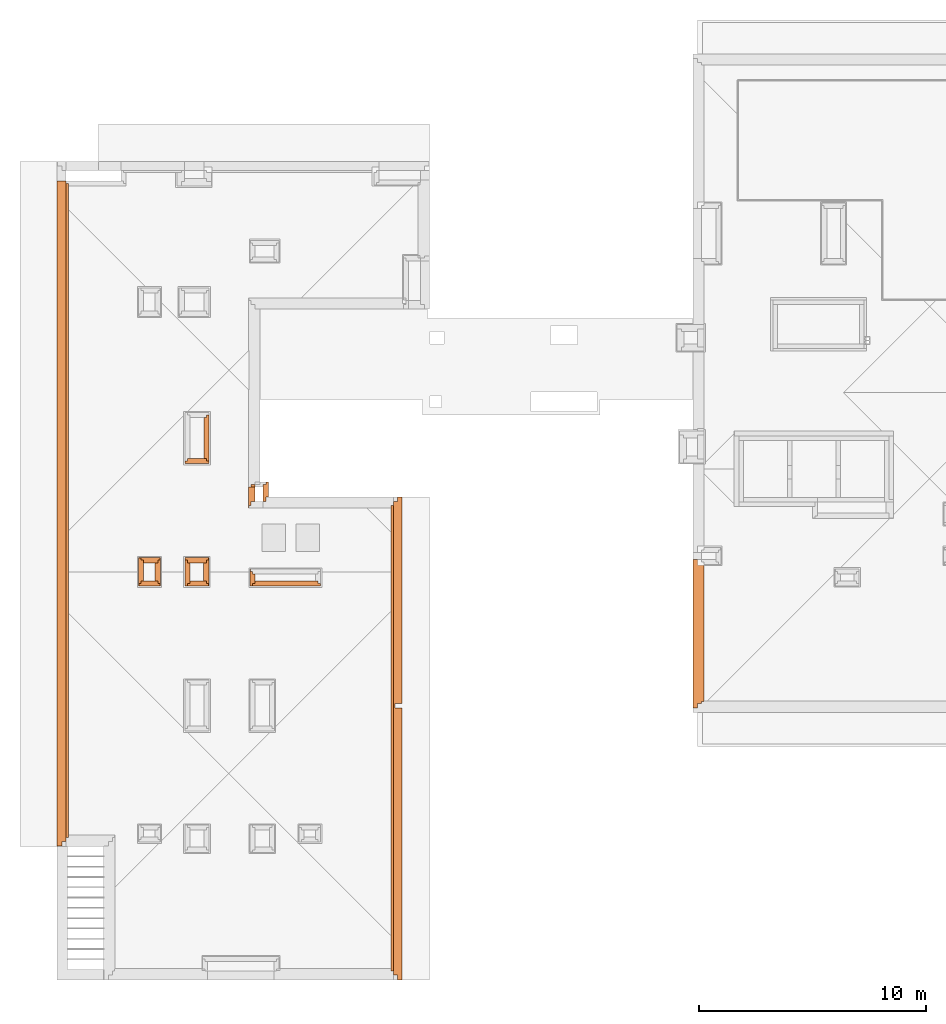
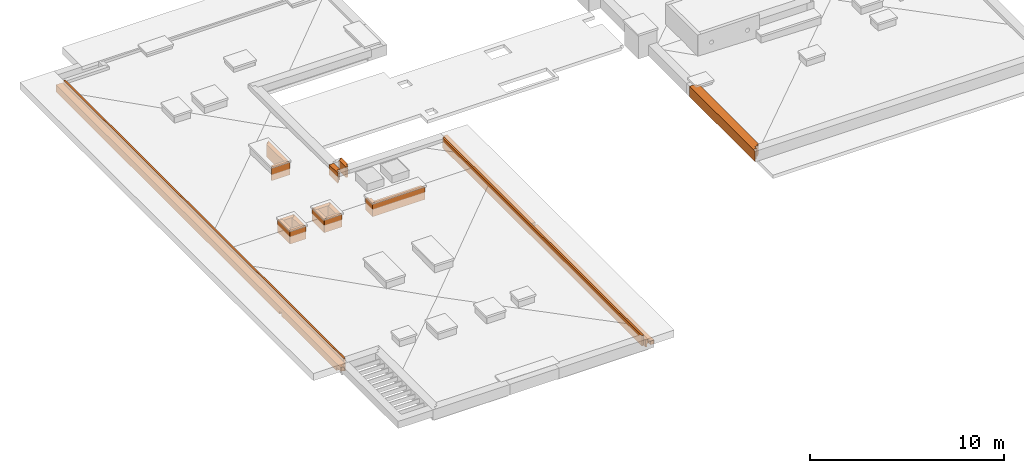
# One storey, part 8 of 16: 17 proxies.
"""IFC2X3 building model written with IfcOpenShell, lengths in millimetres."""

from ifc_helpers import new_model, entity, si_unit, converted_unit, derived_unit, money_unit, direction, frame, origin_with_axes, place, context, subcontext, project, spatial, faceted_brep, material, material_list, type_object, element, save


model = new_model("IFC2X3")

# Units and contexts
model_context = context("Model", 3, precision=0.01, world=origin_with_axes(), true_north=direction((0.34421633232, 0.938890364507)))
body_context = subcontext(model_context, "Body", "Model", "MODEL_VIEW")
ifc_project = project(units=[si_unit("LENGTHUNIT", "METRE", prefix="MILLI"), si_unit("AREAUNIT", "SQUARE_METRE"), si_unit("VOLUMEUNIT", "CUBIC_METRE"), converted_unit("PLANEANGLEUNIT", "DEGREE", entity("IfcPlaneAngleMeasure", 0.0174532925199), si_unit("PLANEANGLEUNIT", "RADIAN"), dimensions=[0, 0, 0, 0, 0, 0, 0]), si_unit("SOLIDANGLEUNIT", "STERADIAN"), money_unit("USD"), converted_unit("TIMEUNIT", "Year", entity("IfcTimeMeasure", 31556926.0), si_unit("TIMEUNIT", "SECOND"), dimensions=[0, 0, 1, 0, 0, 0, 0]), si_unit("MASSUNIT", "GRAM", prefix="KILO"), si_unit("THERMODYNAMICTEMPERATUREUNIT", "DEGREE_CELSIUS"), si_unit("LUMINOUSINTENSITYUNIT", "LUMEN"), si_unit("ENERGYUNIT", "JOULE", prefix="MEGA"), derived_unit("THERMALCONDUCTANCEUNIT", [(si_unit("POWERUNIT", "WATT"), 1), (si_unit("LENGTHUNIT", "METRE"), -1), (si_unit("THERMODYNAMICTEMPERATUREUNIT", "KELVIN"), -1)]), derived_unit("SPECIFICHEATCAPACITYUNIT", [(si_unit("ENERGYUNIT", "JOULE"), 1), (si_unit("MASSUNIT", "GRAM", prefix="KILO"), -1), (si_unit("THERMODYNAMICTEMPERATUREUNIT", "KELVIN"), -1)]), derived_unit("MASSDENSITYUNIT", [(si_unit("MASSUNIT", "GRAM", prefix="KILO"), 1), (si_unit("VOLUMEUNIT", "CUBIC_METRE"), -1)])], contexts=[model_context])

# Site, building, storey
site_placement = place(None, origin_with_axes())
site = spatial("IfcSite", under=ifc_project, at=site_placement, Name="USTRONIE MORSKIE", CompositionType="ELEMENT")
building_placement = place(site_placement, origin_with_axes())
building = spatial("IfcBuilding", under=site, at=building_placement, Name="Budynek", CompositionType="ELEMENT")
storey_placement = place(building_placement, frame((0.0, 0.0, 19000.0), z_axis=(0.0, 0.0, 1.0), x_axis=(1.0, 0.0, 0.0)))
storey = spatial("IfcBuildingStorey", under=building, at=storey_placement, Name="DACH", CompositionType="ELEMENT", Elevation=19000.0)

# Proxies
ifc_material_1 = material(Name="Tynk zewnętrzny")
ifc_material_2 = material(Name="Wełna ELEW")
ifc_material_3 = material(Name="Bloczki silikatowe")
ifc_material_list_1 = material_list([ifc_material_1, ifc_material_2, ifc_material_3, ifc_material_2, ifc_material_1])
building_element_proxy_type_1 = type_object("IfcBuildingElementProxyType", Name="18 SILIKAT+20-10 500", PredefinedType="NOTDEFINED")
proxy_1_placement = place(storey_placement, frame((365967.920919, 730001.199019, -160.0), z_axis=(0.0, 0.0, 1.0), x_axis=(0.0, -1.0, 0.0)))
element("IfcBuildingElementProxy", 1, at=proxy_1_placement, inside=storey, type_object=building_element_proxy_type_1, material=ifc_material_list_1, Name="Œciana-006", context=body_context, shape_type="Brep", body=[
    faceted_brep([(9099.99998246, 200.0, 450.0), (9099.99998246, 210.0, 450.0), (9099.99998246, 210.0, 0.0), (9099.99998246, 200.0, 0.0), (21109.9999825, 210.0, 450.0), (21109.9999825, 200.0, 450.0), (21109.9999825, 210.0, 210.000000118), (20639.9999825, 210.0, 210.000000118), (20639.9999825, 210.0, 0.0), (20639.9999825, 200.0, 0.0), (20639.9999825, 200.0, 210.000000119), (21109.9999825, 200.0, 210.000000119)], [[[0, 1, 2, 3]], [[4, 1, 0, 5]], [[1, 4, 6, 7, 8, 2]], [[9, 3, 2, 8]], [[5, 0, 3, 9, 10, 11]], [[4, 5, 11, 6]], [[10, 7, 6, 11]], [[9, 8, 7, 10]]]),
    faceted_brep([(-209.999653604, 200.0, 450.0), (-209.999653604, 210.0, 450.0), (-209.999653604, 210.0, 210.000000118), (-209.999653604, 200.0, 210.000000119), (8899.99998246, 210.0, 450.0), (8899.99998246, 200.0, 450.0), (8899.99998246, 210.0, 0.0), (260.000346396, 210.0, 0.0), (260.000346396, 210.0, 210.000000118), (260.000346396, 200.0, 210.000000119), (260.000346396, 200.0, 0.0), (8899.99998246, 200.0, 0.0)], [[[0, 1, 2, 3]], [[4, 1, 0, 5]], [[1, 4, 6, 7, 8, 2]], [[2, 8, 9, 3]], [[5, 0, 3, 9, 10, 11]], [[4, 5, 11, 6]], [[11, 10, 7, 6]], [[9, 8, 7, 10]]]),
    faceted_brep([(9099.99998246, 0.0, 450.0), (9099.99998246, 200.0, 450.0), (9099.99998246, 200.0, 0.0), (9099.99998246, 0.0, 0.0), (21099.9999825, 200.0, 450.0), (21099.9999825, 0.0, 450.0), (21099.9999825, 200.0, 210.000000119), (20649.9999825, 200.0, 210.000000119), (20649.9999825, 200.0, 0.0), (20649.9999825, 0.0, 0.0), (20649.9999825, 0.0, 210.000000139), (21099.9999825, 0.0, 210.000000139)], [[[0, 1, 2, 3]], [[4, 1, 0, 5]], [[1, 4, 6, 7, 8, 2]], [[9, 3, 2, 8]], [[5, 0, 3, 9, 10, 11]], [[4, 5, 11, 6]], [[11, 10, 7, 6]], [[9, 8, 7, 10]]]),
    faceted_brep([(-199.999838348, 0.0, 450.0), (-199.999838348, 200.0, 450.0), (-199.999653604, 200.0, 210.000000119), (-199.999653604, 0.0, 210.000000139), (8899.99998246, 200.0, 450.0), (8899.99998246, 0.0, 450.0), (8899.99998246, 200.0, 0.0), (250.000346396, 200.0, 0.0), (250.000346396, 200.0, 210.000000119), (250.000346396, 0.0, 210.000000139), (250.000346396, 0.0, 0.0), (8899.99998246, 0.0, 0.0)], [[[0, 1, 2, 3]], [[4, 1, 0, 5]], [[1, 4, 6, 7, 8, 2]], [[3, 2, 8, 9]], [[5, 0, 3, 9, 10, 11]], [[4, 5, 11, 6]], [[11, 10, 7, 6]], [[9, 8, 7, 10]]]),
    faceted_brep([(0.0, -180.0, 450.0), (0.000161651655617, 0.0, 450.0), (0.000346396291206, 0.0, 210.000000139), (0.000346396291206, -100.0, 210.000000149), (0.000346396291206, -100.0, 0.0), (0.0, -180.0, 0.0), (8899.99998246, 0.0, 450.0), (20899.9999825, -180.0, 450.0), (20899.9999825, 0.0, 450.0), (9099.99998246, 0.0, 450.0), (9099.99998246, -100.0, 450.0), (8899.99998246, -100.0, 450.0), (8899.99998246, 0.0, 0.0), (200.000346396, 0.0, 0.0), (200.000346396, 0.0, 210.000000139), (200.000346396, -100.0, 210.000000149), (200.000346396, -100.0, 0.0), (8899.99998246, -100.0, 0.0), (9099.99998246, -100.0, 0.0), (9099.99998246, 0.0, 0.0), (20699.9999825, 0.0, 0.0), (20699.9999825, -100.0, 0.0), (20899.9999825, -100.0, 0.0), (20899.9999825, -180.0, 0.0), (20899.9999825, -100.0, 210.000000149), (20899.9999825, 0.0, 210.000000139), (20699.9999825, 0.0, 210.000000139), (20699.9999825, -100.0, 210.000000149)], [[[0, 1, 2, 3, 4, 5]], [[6, 1, 0, 7, 8, 9, 10, 11]], [[1, 6, 12, 13, 14, 2]], [[15, 3, 2, 14]], [[16, 4, 3, 15]], [[4, 16, 13, 12, 17, 18, 19, 20, 21, 22, 23, 5]], [[7, 0, 5, 23]], [[8, 7, 23, 22, 24, 25]], [[9, 8, 25, 26, 20, 19]], [[10, 9, 19, 18]], [[11, 10, 18, 17]], [[6, 11, 17, 12]], [[15, 14, 13, 16]], [[21, 20, 26, 27]], [[24, 22, 21, 27]], [[27, 26, 25, 24]]]),
    faceted_brep([(20719.9999825, -180.0, 5.0), (180.0, -180.0, 5.0), (180.0, -180.0, 660.0), (20719.9999825, -180.0, 660.0), (180.0, -280.0, 5.0), (20719.9999825, -280.0, 5.0), (180.0, -280.0, 660.0), (20719.9999825, -280.0, 660.0)], [[[0, 1, 2, 3]], [[4, 1, 0, 5]], [[1, 4, 6, 2]], [[7, 3, 2, 6]], [[5, 0, 3, 7]], [[4, 5, 7, 6]]]),
    faceted_brep([(20619.9999825, -280.0, 5.0), (280.0, -280.0, 5.0), (280.0, -280.0, 660.0), (20619.9999825, -280.0, 660.0), (280.0, -290.0, 5.0), (20619.9999825, -290.0, 5.0), (280.0, -290.0, 660.0), (20619.9999825, -290.0, 660.0)], [[[0, 1, 2, 3]], [[4, 1, 0, 5]], [[1, 4, 6, 2]], [[7, 3, 2, 6]], [[5, 0, 3, 7]], [[4, 5, 7, 6]]]),
])
proxy_2_placement = place(storey_placement, frame((351167.920919, 715001.199036, -160.0), z_axis=(0.0, 0.0, 1.0), x_axis=(0.0, 1.0, 0.0)))
element("IfcBuildingElementProxy", 2, at=proxy_2_placement, inside=storey, type_object=building_element_proxy_type_1, material=ifc_material_list_1, Name="Œciana-006", context=body_context, shape_type="Brep", body=[
    faceted_brep([(29150.0, 210.0, 450.0), (29150.0, 200.0, 450.0), (29150.0, 200.0, 0.0), (29150.0, 210.0, 0.0), (-210.0, 200.0, 450.0), (-210.0, 210.0, 450.0), (-210.0, 200.0, 210.000000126), (260.0, 200.0, 210.000000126), (260.0, 200.0, 0.0), (5900.00898274, 200.0, 0.0), (5900.00898274, 200.0, 190.0), (6100.00898274, 200.0, 190.0), (6100.00898274, 200.0, 0.0), (6100.00898274, 210.0, 0.0), (6100.00898274, 210.0, 190.0), (5900.00898274, 210.0, 190.0), (5900.00898274, 210.0, 0.0), (260.0, 210.0, 0.0), (260.0, 210.0, 210.000000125), (-210.0, 210.0, 210.000000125)], [[[0, 1, 2, 3]], [[4, 1, 0, 5]], [[1, 4, 6, 7, 8, 9, 10, 11, 12, 2]], [[2, 12, 13, 3]], [[5, 0, 3, 13, 14, 15, 16, 17, 18, 19]], [[4, 5, 19, 6]], [[18, 7, 6, 19]], [[17, 8, 7, 18]], [[9, 8, 17, 16]], [[15, 10, 9, 16]], [[14, 11, 10, 15]], [[13, 12, 11, 14]]]),
    faceted_brep([(29150.0, 200.0, 450.0), (29150.0, 0.0, 450.0), (29150.0, 0.0, 0.0), (29150.0, 200.0, 0.0), (-200.0, 0.0, 450.0), (-200.0, 200.0, 450.0), (-200.0, 0.0, 210.000000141), (250.0, 0.0, 210.000000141), (250.0, 0.0, 0.0), (5900.00898274, 0.0, 0.0), (5900.00898274, 0.0, 190.0), (6100.00898274, 0.0, 190.0), (6100.00898274, 0.0, 0.0), (6100.00898274, 200.0, 0.0), (6100.00898274, 200.0, 190.0), (5900.00898274, 200.0, 190.0), (5900.00898274, 200.0, 0.0), (250.0, 200.0, 0.0), (250.0, 200.0, 210.000000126), (-200.0, 200.0, 210.000000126)], [[[0, 1, 2, 3]], [[4, 1, 0, 5]], [[1, 4, 6, 7, 8, 9, 10, 11, 12, 2]], [[2, 12, 13, 3]], [[5, 0, 3, 13, 14, 15, 16, 17, 18, 19]], [[4, 5, 19, 6]], [[19, 18, 7, 6]], [[17, 8, 7, 18]], [[9, 8, 17, 16]], [[15, 10, 9, 16]], [[14, 11, 10, 15]], [[13, 12, 11, 14]]]),
    faceted_brep([(29150.0, 0.0, 450.0), (29150.0, -180.0, 450.0), (29150.0, -180.0, 0.0), (29150.0, 0.0, 0.0), (0.0, -180.0, 450.0), (-1.13686837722e-10, 0.0, 450.0), (0.0, -180.0, 0.0), (-2.27373675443e-10, -100.0, 0.0), (200.0, -100.0, 0.0), (200.0, 0.0, 0.0), (5900.00898274, 0.0, 0.0), (5900.00898274, -100.0, 0.0), (6100.00898274, -100.0, 0.0), (6100.00898274, 0.0, 0.0), (6100.00898274, 0.0, 190.0), (5900.00898274, 0.0, 190.0), (200.0, 0.0, 210.000000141), (-2.27373675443e-10, 0.0, 210.000000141), (-2.27373675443e-10, -100.0, 210.000000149), (200.0, -100.0, 210.000000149), (5900.00898274, -100.0, 190.0), (6100.00898274, -100.0, 190.0)], [[[0, 1, 2, 3]], [[4, 1, 0, 5]], [[1, 4, 6, 2]], [[7, 8, 9, 10, 11, 12, 13, 3, 2, 6]], [[5, 0, 3, 13, 14, 15, 10, 9, 16, 17]], [[4, 5, 17, 18, 7, 6]], [[19, 8, 7, 18]], [[16, 9, 8, 19]], [[20, 11, 10, 15]], [[21, 12, 11, 20]], [[14, 13, 12, 21]], [[20, 15, 14, 21]], [[19, 18, 17, 16]]]),
    faceted_brep([(180.0, -280.0, 5.0), (29030.0, -280.0, 5.0), (29030.0, -280.0, 660.0), (180.0, -280.0, 660.0), (29030.0, -180.0, 5.0), (180.0, -180.0, 5.0), (29030.0, -180.0, 660.0), (180.0, -180.0, 660.0)], [[[0, 1, 2, 3]], [[4, 1, 0, 5]], [[1, 4, 6, 2]], [[3, 2, 6, 7]], [[5, 0, 3, 7]], [[4, 5, 7, 6]]]),
    faceted_brep([(280.0, -290.0, 5.0), (28930.0, -290.0, 5.0), (28930.0, -290.0, 660.0), (280.0, -290.0, 660.0), (28930.0, -280.0, 5.0), (280.0, -280.0, 5.0), (28930.0, -280.0, 660.0), (280.0, -280.0, 660.0)], [[[0, 1, 2, 3]], [[4, 1, 0, 5]], [[1, 4, 6, 2]], [[3, 2, 6, 7]], [[5, 0, 3, 7]], [[4, 5, 7, 6]]]),
])
proxy_3_placement = place(storey_placement, frame((379217.920919, 720901.199036, -160.0), z_axis=(0.0, 0.0, 1.0), x_axis=(0.0, 1.0, 0.0)))
element("IfcBuildingElementProxy", 3, at=proxy_3_placement, inside=storey, type_object=building_element_proxy_type_1, material=ifc_material_list_1, Name="Œciana-006", context=body_context, shape_type="Brep", body=[
    faceted_brep([(-200.0, 200.0, 660.0), (6550.0, 200.0, 660.0), (6550.0, 210.0, 660.0), (-200.0, 210.0, 660.0), (-200.0, 200.0, 0.0), (6550.0, 200.0, 0.0), (6550.0, 210.0, 0.0), (-200.0, 210.0, 0.0)], [[[0, 1, 2, 3]], [[4, 5, 1, 0]], [[2, 1, 5, 6]], [[3, 2, 6, 7]], [[3, 7, 4, 0]], [[7, 6, 5, 4]]]),
    faceted_brep([(0.0, 200.0, 660.0), (0.0, 0.0, 660.0), (6550.0, 0.0, 660.0), (6550.0, 200.0, 660.0), (0.0, 200.0, 0.0), (0.0, 0.0, 0.0), (6550.0, 0.0, 0.0), (6550.0, 200.0, 0.0)], [[[0, 1, 2, 3]], [[1, 0, 4, 5]], [[1, 5, 6, 2]], [[7, 3, 2, 6]], [[4, 0, 3, 7]], [[5, 4, 7, 6]]]),
    faceted_brep([(6550.0, 0.0, 660.0), (180.0, 0.0, 660.0), (180.0, -180.0, 660.0), (6550.0, -180.0, 660.0), (6550.0, 0.0, 0.0), (180.0, 0.0, 0.0), (180.0, -180.0, 0.0), (6550.0, -180.0, 0.0)], [[[0, 1, 2, 3]], [[4, 5, 1, 0]], [[6, 2, 1, 5]], [[3, 2, 6, 7]], [[7, 4, 0, 3]], [[7, 6, 5, 4]]]),
    faceted_brep([(280.0, -280.0, 660.0), (280.0, -280.0, 5.0), (6430.0, -280.0, 5.0), (6430.0, -280.0, 660.0), (280.0, -180.0, 660.0), (280.0, -180.0, 5.0), (6430.0, -180.0, 5.0), (6430.0, -180.0, 660.0)], [[[0, 1, 2, 3]], [[4, 5, 1, 0]], [[5, 6, 2, 1]], [[3, 2, 6, 7]], [[4, 0, 3, 7]], [[7, 6, 5, 4]]]),
    faceted_brep([(6319.99996425, -290.0, 519.111988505), (6319.99996425, -290.0, 5.0), (6330.0, -290.0, 5.0), (6330.0, -290.0, 660.0), (290.0, -290.0, 660.0), (290.0, -290.0, 519.111989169), (6319.99996425, -279.999987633, 519.311988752), (6319.99996425, -279.999987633, 5.0), (6330.0, -280.0, 5.0), (6330.0, -280.0, 660.0), (290.0, -280.0, 660.0), (290.0, -279.999817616, 519.311992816)], [[[0, 1, 2, 3, 4, 5]], [[1, 0, 6, 7]], [[1, 7, 8, 2]], [[3, 2, 8, 9]], [[10, 4, 3, 9]], [[11, 5, 4, 10]], [[0, 5, 11, 6]], [[6, 11, 10, 9, 8, 7]]]),
])
ifc_material_list_2 = material_list([ifc_material_3, ifc_material_2, ifc_material_1])
building_element_proxy_type_2 = type_object("IfcBuildingElementProxyType", Name="12+10 kominy 230", PredefinedType="NOTDEFINED")
proxy_4_placement = place(storey_placement, frame((359697.922503, 726501.19248, -160.0), z_axis=(0.0, 0.0, 1.0), x_axis=(1.0, 0.0, 0.0)))
element("IfcBuildingElementProxy", 4, at=proxy_4_placement, inside=storey, type_object=building_element_proxy_type_2, material=ifc_material_list_2, Name="Œciana-006", context=body_context, shape_type="Brep", body=[
    faceted_brep([(2779.99841571, 0.0, 0.0), (2779.99841571, -120.0, 0.0), (0.0, -120.0, 0.0), (0.0, 0.0, 0.0), (2779.99841571, 0.0, 800.000001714), (2779.99841571, -120.0, 800.000001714), (0.0, -120.0, 800.000001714), (0.0, 0.0, 800.000001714)], [[[0, 1, 2, 3]], [[1, 0, 4, 5]], [[1, 5, 6, 2]], [[7, 3, 2, 6]], [[4, 0, 3, 7]], [[5, 4, 7, 6]]]),
    faceted_brep([(2879.99841571, -220.0, 5.0), (2879.99841571, -120.0, 5.0), (2879.99841571, -120.0, 800.000001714), (2879.99841571, -220.0, 800.000001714), (-120.0, -120.0, 5.0), (-120.0, -220.0, 5.0), (-120.0, -120.0, 800.000001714), (-120.0, -220.0, 800.000001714)], [[[0, 1, 2, 3]], [[4, 1, 0, 5]], [[1, 4, 6, 2]], [[3, 2, 6, 7]], [[5, 0, 3, 7]], [[4, 5, 7, 6]]]),
    faceted_brep([(2889.99841571, -230.0, 5.0), (2889.99841571, -220.0, 5.0), (2889.99841571, -220.0, 800.000001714), (2889.99841571, -230.0, 800.000001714), (-220.0, -220.0, 5.0), (-220.0, -230.0, 5.0), (-220.0, -220.0, 800.000001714), (-220.0, -230.0, 800.000001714)], [[[0, 1, 2, 3]], [[4, 1, 0, 5]], [[1, 4, 6, 2]], [[3, 2, 6, 7]], [[5, 0, 3, 7]], [[4, 5, 7, 6]]]),
])
ifc_material_list_3 = material_list([ifc_material_1, ifc_material_2, ifc_material_3])
proxy_5_placement = place(storey_placement, frame((355277.920919, 726501.199036, -160.0), z_axis=(0.0, 0.0, 1.0), x_axis=(-1.0, 0.0, 0.0)))
element("IfcBuildingElementProxy", 5, at=proxy_5_placement, inside=storey, type_object=building_element_proxy_type_2, material=ifc_material_list_3, Name="Œciana-006", context=body_context, shape_type="Brep", body=[
    faceted_brep([(-230.0, 230.0, 5.0), (-230.0, 220.0, 5.0), (-230.0, 220.0, 800.000001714), (-230.0, 230.0, 800.000001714), (730.0, 220.0, 5.0), (730.0, 230.0, 5.0), (730.0, 220.0, 800.000001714), (730.0, 230.0, 800.000001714)], [[[0, 1, 2, 3]], [[4, 1, 0, 5]], [[1, 4, 6, 2]], [[6, 7, 3, 2]], [[5, 0, 3, 7]], [[4, 5, 7, 6]]]),
    faceted_brep([(-220.0, 220.0, 5.0), (-220.0, 120.0, 5.0), (-220.0, 120.0, 800.000001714), (-220.0, 220.0, 800.000001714), (720.0, 120.0, 5.0), (720.0, 220.0, 5.0), (720.0, 120.0, 800.000001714), (720.0, 220.0, 800.000001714)], [[[0, 1, 2, 3]], [[4, 1, 0, 5]], [[1, 4, 6, 2]], [[6, 7, 3, 2]], [[5, 0, 3, 7]], [[4, 5, 7, 6]]]),
    faceted_brep([(620.0, 0.0, 800.000001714), (620.0, 120.0, 800.000001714), (-120.0, 120.0, 800.000001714), (-120.0, 0.0, 800.000001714), (620.0, 0.0, 0.0), (620.0, 120.0, 0.0), (-120.0, 120.0, 0.0), (-120.0, 0.0, 0.0)], [[[0, 1, 2, 3]], [[1, 0, 4, 5]], [[1, 5, 6, 2]], [[7, 3, 2, 6]], [[4, 0, 3, 7]], [[5, 4, 7, 6]]]),
])
proxy_6_placement = place(storey_placement, frame((354777.920919, 726501.199036, -160.0), z_axis=(0.0, 0.0, 1.0), x_axis=(0.0, 1.0, 0.0)))
element("IfcBuildingElementProxy", 6, at=proxy_6_placement, inside=storey, type_object=building_element_proxy_type_2, material=ifc_material_list_3, Name="Œciana-006", context=body_context, shape_type="Brep", body=[
    faceted_brep([(800.0, 220.0, 5.0), (1030.01915523, 220.0, 5.0), (1030.01915523, 220.0, 800.000001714), (-220.0, 220.0, 800.000001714), (-220.0, 220.0, 5.0), (1030.01915523, 230.0, 5.0), (800.0, 230.0, 5.0), (1030.01915523, 230.0, 800.000001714), (-220.0, 230.0, 800.000001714), (-220.0, 230.0, 5.0)], [[[0, 1, 2, 3, 4]], [[5, 1, 0, 6]], [[1, 5, 7, 2]], [[2, 7, 8, 3]], [[9, 4, 3, 8]], [[6, 0, 4, 9]], [[5, 6, 9, 8, 7]]]),
    faceted_brep([(1020.01915523, 120.0, 5.0), (1020.01915523, 120.0, 800.000001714), (-120.0, 120.0, 800.000001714), (-120.0, 120.0, 5.0), (1020.01915523, 220.0, 5.0), (1020.01915523, 220.0, 800.000001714), (-120.0, 220.0, 800.000001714), (-120.0, 220.0, 5.0)], [[[0, 1, 2, 3]], [[0, 4, 5, 1]], [[1, 5, 6, 2]], [[7, 3, 2, 6]], [[4, 0, 3, 7]], [[4, 7, 6, 5]]]),
    faceted_brep([(920.01915523, 0.0, 800.000001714), (920.01915523, 120.0, 800.000001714), (0.0, 120.0, 800.000001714), (0.0, 0.0, 800.000001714), (920.01915523, 0.0, 0.0), (920.01915523, 120.0, 0.0), (0.0, 120.0, 0.0), (0.0, 0.0, 0.0)], [[[0, 1, 2, 3]], [[1, 0, 4, 5]], [[1, 5, 6, 2]], [[7, 3, 2, 6]], [[4, 0, 3, 7]], [[5, 4, 7, 6]]]),
])
proxy_7_placement = place(storey_placement, frame((356817.920919, 726501.19248, -160.0), z_axis=(0.0, 0.0, 1.0), x_axis=(1.0, 0.0, 0.0)))
element("IfcBuildingElementProxy", 7, at=proxy_7_placement, inside=storey, type_object=building_element_proxy_type_2, material=ifc_material_list_2, Name="Œciana-006", context=body_context, shape_type="Brep", body=[
    faceted_brep([(720.0, 0.0, 0.0), (720.0, -120.0, 0.0), (0.0, -120.0, 0.0), (0.0, 0.0, 0.0), (720.0, 0.0, 800.000001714), (720.0, -120.0, 800.000001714), (0.0, -120.0, 800.000001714), (0.0, 0.0, 800.000001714)], [[[0, 1, 2, 3]], [[1, 0, 4, 5]], [[1, 5, 6, 2]], [[7, 3, 2, 6]], [[4, 0, 3, 7]], [[5, 4, 7, 6]]]),
    faceted_brep([(820.0, -220.0, 5.0), (820.0, -120.0, 5.0), (820.0, -120.0, 800.000001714), (820.0, -220.0, 800.000001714), (-120.0, -120.0, 5.0), (-120.0, -220.0, 5.0), (-120.0, -120.0, 800.000001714), (-120.0, -220.0, 800.000001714)], [[[0, 1, 2, 3]], [[4, 1, 0, 5]], [[1, 4, 6, 2]], [[3, 2, 6, 7]], [[5, 0, 3, 7]], [[4, 5, 7, 6]]]),
    faceted_brep([(830.0, -230.0, 5.0), (830.0, -220.0, 5.0), (830.0, -220.0, 800.000001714), (830.0, -230.0, 800.000001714), (-220.0, -220.0, 5.0), (-220.0, -230.0, 5.0), (-220.0, -220.0, 800.000001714), (-220.0, -230.0, 800.000001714)], [[[0, 1, 2, 3]], [[4, 1, 0, 5]], [[1, 4, 6, 2]], [[3, 2, 6, 7]], [[5, 0, 3, 7]], [[4, 5, 7, 6]]]),
])
proxy_8_placement = place(storey_placement, frame((354777.920919, 727301.218191, -160.0), z_axis=(0.0, 0.0, 1.0), x_axis=(1.0, 0.0, 0.0)))
element("IfcBuildingElementProxy", 8, at=proxy_8_placement, inside=storey, type_object=building_element_proxy_type_2, material=ifc_material_list_3, Name="Œciana-006", context=body_context, shape_type="Brep", body=[
    faceted_brep([(730.0, 220.0, 5.0), (730.0, 230.0, 5.0), (730.0, 230.0, 800.000001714), (730.0, 220.0, 800.000001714), (-220.0, 230.0, 5.0), (-220.0, 220.0, 5.0), (-220.0, 230.0, 800.000001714), (-220.0, 220.0, 800.000001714)], [[[0, 1, 2, 3]], [[4, 1, 0, 5]], [[1, 4, 6, 2]], [[3, 2, 6, 7]], [[5, 0, 3, 7]], [[4, 5, 7, 6]]]),
    faceted_brep([(720.0, 120.0, 5.0), (720.0, 220.0, 5.0), (720.0, 220.0, 800.000001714), (720.0, 120.0, 800.000001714), (-120.0, 220.0, 5.0), (-120.0, 120.0, 5.0), (-120.0, 220.0, 800.000001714), (-120.0, 120.0, 800.000001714)], [[[0, 1, 2, 3]], [[4, 1, 0, 5]], [[1, 4, 6, 2]], [[3, 2, 6, 7]], [[5, 0, 3, 7]], [[4, 5, 7, 6]]]),
    faceted_brep([(620.0, 0.0, 800.000001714), (620.0, 120.0, 800.000001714), (0.0, 120.0, 800.000001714), (0.0, 0.0, 800.000001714), (620.0, 0.0, 0.0), (620.0, 120.0, 0.0), (0.0, 120.0, 0.0), (0.0, 0.0, 0.0)], [[[0, 1, 2, 3]], [[1, 0, 4, 5]], [[1, 5, 6, 2]], [[7, 3, 2, 6]], [[4, 0, 3, 7]], [[5, 4, 7, 6]]]),
])
proxy_9_placement = place(storey_placement, frame((357417.920919, 726501.19248, -160.0), z_axis=(0.0, 0.0, 1.0), x_axis=(0.0, 1.0, 0.0)))
element("IfcBuildingElementProxy", 9, at=proxy_9_placement, inside=storey, type_object=building_element_proxy_type_2, material=ifc_material_list_2, Name="Œciana-006", context=body_context, shape_type="Brep", body=[
    faceted_brep([(800.0, 0.0, 0.0), (800.0, -120.0, 0.0), (0.0, -120.0, 0.0), (0.0, 0.0, 0.0), (800.0, 0.0, 800.000001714), (800.0, -120.0, 800.000001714), (0.0, -120.0, 800.000001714), (0.0, 0.0, 800.000001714)], [[[0, 1, 2, 3]], [[1, 0, 4, 5]], [[1, 5, 6, 2]], [[7, 3, 2, 6]], [[4, 0, 3, 7]], [[5, 4, 7, 6]]]),
    faceted_brep([(-120.0, -220.0, 5.0), (920.0, -220.0, 5.0), (920.0, -220.0, 800.000001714), (-120.0, -220.0, 800.000001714), (920.0, -120.0, 5.0), (-120.0, -120.0, 5.0), (920.0, -120.0, 800.000001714), (-120.0, -120.0, 800.000001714)], [[[0, 1, 2, 3]], [[4, 1, 0, 5]], [[1, 4, 6, 2]], [[2, 6, 7, 3]], [[5, 0, 3, 7]], [[4, 5, 7, 6]]]),
    faceted_brep([(-220.0, -230.0, 5.0), (1020.0, -230.0, 5.0), (1020.0, -230.0, 800.000001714), (-220.0, -230.0, 800.000001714), (1020.0, -220.0, 5.0), (-220.0, -220.0, 5.0), (1020.0, -220.0, 800.000001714), (-220.0, -220.0, 800.000001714)], [[[0, 1, 2, 3]], [[4, 1, 0, 5]], [[1, 4, 6, 2]], [[2, 6, 7, 3]], [[5, 0, 3, 7]], [[4, 5, 7, 6]]]),
])
proxy_10_placement = place(storey_placement, frame((355277.920919, 727301.218191, -160.0), z_axis=(0.0, 0.0, 1.0), x_axis=(0.0, -1.0, 0.0)))
element("IfcBuildingElementProxy", 10, at=proxy_10_placement, inside=storey, type_object=building_element_proxy_type_2, material=ifc_material_list_3, Name="Œciana-006", context=body_context, shape_type="Brep", body=[
    faceted_brep([(-220.0, 230.0, 5.0), (-220.0, 230.0, 800.000001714), (1020.01915523, 230.0, 800.000001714), (1020.01915523, 230.0, 5.0), (-220.0, 220.0, 5.0), (-220.0, 220.0, 800.000001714), (1020.01915523, 220.0, 800.000001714), (1020.01915523, 220.0, 5.0)], [[[0, 1, 2, 3]], [[0, 4, 5, 1]], [[6, 2, 1, 5]], [[7, 3, 2, 6]], [[4, 0, 3, 7]], [[4, 7, 6, 5]]]),
    faceted_brep([(-120.0, 220.0, 5.0), (-120.0, 220.0, 800.000001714), (920.01915523, 220.0, 800.000001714), (920.01915523, 220.0, 5.0), (-120.0, 120.0, 5.0), (-120.0, 120.0, 800.000001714), (920.01915523, 120.0, 800.000001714), (920.01915523, 120.0, 5.0)], [[[0, 1, 2, 3]], [[0, 4, 5, 1]], [[6, 2, 1, 5]], [[7, 3, 2, 6]], [[4, 0, 3, 7]], [[4, 7, 6, 5]]]),
    faceted_brep([(800.01915523, 0.0, 800.000001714), (800.01915523, 120.0, 800.000001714), (0.0, 120.0, 800.000001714), (0.0, 0.0, 800.000001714), (800.01915523, 0.0, 0.0), (800.01915523, 120.0, 0.0), (0.0, 120.0, 0.0), (0.0, 0.0, 0.0)], [[[0, 1, 2, 3]], [[1, 0, 4, 5]], [[1, 5, 6, 2]], [[7, 3, 2, 6]], [[4, 0, 3, 7]], [[5, 4, 7, 6]]]),
])
proxy_11_placement = place(storey_placement, frame((356817.920919, 727301.19248, -160.0), z_axis=(0.0, 0.0, 1.0), x_axis=(0.0, -1.0, 0.0)))
element("IfcBuildingElementProxy", 11, at=proxy_11_placement, inside=storey, type_object=building_element_proxy_type_2, material=ifc_material_list_2, Name="Œciana-006", context=body_context, shape_type="Brep", body=[
    faceted_brep([(920.0, 0.0, 0.0), (920.0, -120.0, 0.0), (0.0, -120.0, 0.0), (0.0, 0.0, 0.0), (920.0, 0.0, 800.000001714), (920.0, -120.0, 800.000001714), (0.0, -120.0, 800.000001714), (0.0, 0.0, 800.000001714)], [[[0, 1, 2, 3]], [[1, 0, 4, 5]], [[1, 5, 6, 2]], [[7, 3, 2, 6]], [[4, 0, 3, 7]], [[5, 4, 7, 6]]]),
    faceted_brep([(1020.0, -120.0, 5.0), (-120.0, -120.0, 5.0), (-120.0, -120.0, 800.000001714), (1020.0, -120.0, 800.000001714), (-120.0, -220.0, 5.0), (1020.0, -220.0, 5.0), (-120.0, -220.0, 800.000001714), (1020.0, -220.0, 800.000001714)], [[[0, 1, 2, 3]], [[4, 1, 0, 5]], [[1, 4, 6, 2]], [[7, 3, 2, 6]], [[5, 0, 3, 7]], [[4, 5, 7, 6]]]),
    faceted_brep([(1030.0, -220.0, 5.0), (-220.0, -220.0, 5.0), (-220.0, -220.0, 800.000001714), (1030.0, -220.0, 800.000001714), (-220.0, -230.0, 5.0), (1030.0, -230.0, 5.0), (-220.0, -230.0, 800.000001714), (1030.0, -230.0, 800.000001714)], [[[0, 1, 2, 3]], [[4, 1, 0, 5]], [[1, 4, 6, 2]], [[7, 3, 2, 6]], [[5, 0, 3, 7]], [[4, 5, 7, 6]]]),
])
proxy_12_placement = place(storey_placement, frame((357417.920919, 727301.19248, -160.0), z_axis=(0.0, 0.0, 1.0), x_axis=(-1.0, 0.0, 0.0)))
element("IfcBuildingElementProxy", 12, at=proxy_12_placement, inside=storey, type_object=building_element_proxy_type_2, material=ifc_material_list_2, Name="Œciana-006", context=body_context, shape_type="Brep", body=[
    faceted_brep([(720.0, 0.0, 0.0), (720.0, -120.0, 0.0), (-120.0, -120.0, 0.0), (-120.0, 0.0, 0.0), (720.0, 0.0, 800.000001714), (720.0, -120.0, 800.000001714), (-120.0, -120.0, 800.000001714), (-120.0, 0.0, 800.000001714)], [[[0, 1, 2, 3]], [[1, 0, 4, 5]], [[1, 5, 6, 2]], [[7, 3, 2, 6]], [[4, 0, 3, 7]], [[5, 4, 7, 6]]]),
    faceted_brep([(-220.0, -120.0, 5.0), (-220.0, -220.0, 5.0), (-220.0, -220.0, 800.000001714), (-220.0, -120.0, 800.000001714), (820.0, -220.0, 5.0), (820.0, -120.0, 5.0), (820.0, -220.0, 800.000001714), (820.0, -120.0, 800.000001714)], [[[0, 1, 2, 3]], [[4, 1, 0, 5]], [[1, 4, 6, 2]], [[6, 7, 3, 2]], [[5, 0, 3, 7]], [[4, 5, 7, 6]]]),
    faceted_brep([(-230.0, -220.0, 5.0), (-230.0, -230.0, 5.0), (-230.0, -230.0, 800.000001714), (-230.0, -220.0, 800.000001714), (830.0, -230.0, 5.0), (830.0, -220.0, 5.0), (830.0, -230.0, 800.000001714), (830.0, -220.0, 800.000001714)], [[[0, 1, 2, 3]], [[4, 1, 0, 5]], [[1, 4, 6, 2]], [[6, 7, 3, 2]], [[5, 0, 3, 7]], [[4, 5, 7, 6]]]),
])
proxy_13_placement = place(storey_placement, frame((357437.920919, 733701.199036, -160.0), z_axis=(0.0, 0.0, 1.0), x_axis=(0.0, -1.0, 0.0)))
element("IfcBuildingElementProxy", 13, at=proxy_13_placement, inside=storey, type_object=building_element_proxy_type_2, material=ifc_material_list_3, Name="Œciana-006", context=body_context, shape_type="Brep", body=[
    faceted_brep([(-220.0, 230.0, 5.0), (-220.0, 230.0, 800.000001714), (2020.0, 230.0, 800.000001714), (2020.0, 230.0, 5.0), (-220.0, 220.0, 5.0), (-220.0, 220.0, 800.000001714), (2020.0, 220.0, 800.000001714), (2020.0, 220.0, 5.0)], [[[0, 1, 2, 3]], [[0, 4, 5, 1]], [[6, 2, 1, 5]], [[7, 3, 2, 6]], [[4, 0, 3, 7]], [[4, 7, 6, 5]]]),
    faceted_brep([(-120.0, 220.0, 5.0), (-120.0, 220.0, 800.000001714), (1920.0, 220.0, 800.000001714), (1920.0, 220.0, 5.0), (-120.0, 120.0, 5.0), (-120.0, 120.0, 800.000001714), (1920.0, 120.0, 800.000001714), (1920.0, 120.0, 5.0)], [[[0, 1, 2, 3]], [[0, 4, 5, 1]], [[6, 2, 1, 5]], [[7, 3, 2, 6]], [[4, 0, 3, 7]], [[4, 7, 6, 5]]]),
    faceted_brep([(1800.0, 0.0, 800.000001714), (1800.0, 120.0, 800.000001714), (0.0, 120.0, 800.000001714), (0.0, 0.0, 800.000001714), (1800.0, 0.0, 0.0), (1800.0, 120.0, 0.0), (0.0, 120.0, 0.0), (0.0, 0.0, 0.0)], [[[0, 1, 2, 3]], [[1, 0, 4, 5]], [[1, 5, 6, 2]], [[7, 3, 2, 6]], [[4, 0, 3, 7]], [[5, 4, 7, 6]]]),
])
proxy_14_placement = place(storey_placement, frame((357437.920919, 731901.199036, -160.0), z_axis=(0.0, 0.0, 1.0), x_axis=(-1.0, 0.0, 0.0)))
element("IfcBuildingElementProxy", 14, at=proxy_14_placement, inside=storey, type_object=building_element_proxy_type_2, material=ifc_material_list_3, Name="Œciana-006", context=body_context, shape_type="Brep", body=[
    faceted_brep([(-230.0, 230.0, 5.0), (-230.0, 220.0, 5.0), (-230.0, 220.0, 800.000001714), (-230.0, 230.0, 800.000001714), (850.0, 220.0, 5.0), (850.0, 230.0, 5.0), (850.0, 220.0, 800.000001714), (850.0, 230.0, 800.000001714)], [[[0, 1, 2, 3]], [[4, 1, 0, 5]], [[1, 4, 6, 2]], [[6, 7, 3, 2]], [[5, 0, 3, 7]], [[4, 5, 7, 6]]]),
    faceted_brep([(-220.0, 220.0, 5.0), (-220.0, 120.0, 5.0), (-220.0, 120.0, 800.000001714), (-220.0, 220.0, 800.000001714), (840.0, 120.0, 5.0), (840.0, 220.0, 5.0), (840.0, 120.0, 800.000001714), (840.0, 220.0, 800.000001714)], [[[0, 1, 2, 3]], [[4, 1, 0, 5]], [[1, 4, 6, 2]], [[6, 7, 3, 2]], [[5, 0, 3, 7]], [[4, 5, 7, 6]]]),
    faceted_brep([(740.0, 0.0, 800.000001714), (740.0, 120.0, 800.000001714), (-120.0, 120.0, 800.000001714), (-120.0, 0.0, 800.000001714), (740.0, 0.0, 0.0), (740.0, 120.0, 0.0), (-120.0, 120.0, 0.0), (-120.0, 0.0, 0.0)], [[[0, 1, 2, 3]], [[1, 0, 4, 5]], [[1, 5, 6, 2]], [[7, 3, 2, 6]], [[4, 0, 3, 7]], [[5, 4, 7, 6]]]),
])
proxy_15_placement = place(storey_placement, frame((359697.922503, 726801.201317, -160.0), z_axis=(0.0, 0.0, 1.0), x_axis=(0.0, -1.0, 0.0)))
element("IfcBuildingElementProxy", 15, at=proxy_15_placement, inside=storey, type_object=building_element_proxy_type_2, material=ifc_material_list_2, Name="Œciana-006", context=body_context, shape_type="Brep", body=[
    faceted_brep([(420.008836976, 0.0, 0.0), (420.008836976, -120.0, 0.0), (0.0, -120.0, 0.0), (0.0, 0.0, 0.0), (420.008836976, 0.0, 800.000001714), (420.008836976, -120.0, 800.000001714), (0.0, -120.0, 800.000001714), (0.0, 0.0, 800.000001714)], [[[0, 1, 2, 3]], [[1, 0, 4, 5]], [[1, 5, 6, 2]], [[7, 3, 2, 6]], [[4, 0, 3, 7]], [[5, 4, 7, 6]]]),
    faceted_brep([(520.008836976, -120.0, 5.0), (-120.0, -120.0, 5.0), (-120.0, -120.0, 800.000001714), (520.008836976, -120.0, 800.000001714), (-120.0, -220.0, 5.0), (520.008836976, -220.0, 5.0), (-120.0, -220.0, 800.000001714), (520.008836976, -220.0, 800.000001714)], [[[0, 1, 2, 3]], [[4, 1, 0, 5]], [[1, 4, 6, 2]], [[7, 3, 2, 6]], [[5, 0, 3, 7]], [[4, 5, 7, 6]]]),
    faceted_brep([(530.008836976, -220.0, 5.0), (-220.0, -220.0, 5.0), (-220.0, -220.0, 800.000001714), (530.008836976, -220.0, 800.000001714), (-220.0, -230.0, 5.0), (530.008836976, -230.0, 5.0), (-220.0, -230.0, 800.000001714), (530.008836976, -230.0, 800.000001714)], [[[0, 1, 2, 3]], [[4, 1, 0, 5]], [[1, 4, 6, 2]], [[7, 3, 2, 6]], [[5, 0, 3, 7]], [[4, 5, 7, 6]]]),
])
proxy_16_placement = place(storey_placement, frame((360047.920919, 730001.199019, -159.999998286), z_axis=(0.0, 0.0, 1.0), x_axis=(0.0, 1.0, 0.0)))
element("IfcBuildingElementProxy", 16, at=proxy_16_placement, inside=storey, type_object=building_element_proxy_type_2, material=ifc_material_list_2, Name="Œciana-006", context=body_context, shape_type="Brep", body=[
    faceted_brep([(0.0, 0.0, 659.999998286), (0.0, -120.0, 659.999998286), (760.000017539, -120.0, 659.999998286), (760.000017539, 0.0, 659.999998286), (0.0, -120.0, -1.70008007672e-06), (0.0, 0.0, -1.69980651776e-06), (760.000017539, -120.0, -2.85620416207e-07), (760.000017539, 0.0, -2.85620416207e-07)], [[[0, 1, 2, 3]], [[4, 1, 0, 5]], [[1, 4, 6, 2]], [[3, 2, 6, 7]], [[5, 0, 3, 7]], [[4, 5, 7, 6]]]),
    faceted_brep([(860.000017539, -120.0, 659.999998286), (200.0, -120.0, 659.999998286), (200.0, -220.0, 659.999998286), (860.000017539, -220.0, 659.999998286), (860.000017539, -120.0, -1.49608325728e-07), (200.0, -120.0, -1.70008007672e-06), (200.0, -220.0, -1.70030745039e-06), (860.000017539, -220.0, -1.49608325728e-07)], [[[0, 1, 2, 3]], [[4, 5, 1, 0]], [[5, 6, 2, 1]], [[3, 2, 6, 7]], [[4, 0, 3, 7]], [[7, 6, 5, 4]]]),
    faceted_brep([(870.000017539, -220.0, 659.999998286), (210.0, -220.0, 659.999998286), (210.0, -230.0, 659.999998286), (870.000017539, -230.0, 659.999998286), (870.000017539, -220.0, -1.36008537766e-07), (210.0, -220.0, -1.71372960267e-06), (210.0, -230.0, -1.71372960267e-06), (870.000017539, -230.0, -1.36008537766e-07)], [[[0, 1, 2, 3]], [[4, 5, 1, 0]], [[5, 6, 2, 1]], [[3, 2, 6, 7]], [[4, 0, 3, 7]], [[7, 6, 5, 4]]]),
])
building_element_proxy_type_3 = type_object("IfcBuildingElementProxyType", Name="18 SILIKAT+-10 290", PredefinedType="NOTDEFINED")
proxy_17_placement = place(storey_placement, frame((359697.920867, 730641.199036, -159.999999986), z_axis=(0.0, 0.0, 1.0), x_axis=(0.0, -1.0, 0.0)))
element("IfcBuildingElementProxy", 17, at=proxy_17_placement, inside=storey, type_object=building_element_proxy_type_3, material=ifc_material_list_2, Name="Œciana-006", context=body_context, shape_type="Brep", body=[
    faceted_brep([(-120.0, 0.0, 5.08190822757e-07), (-120.0, -1.26658505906e-06, 4.99999920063), (0.0, -1.26658505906e-06, 4.99999998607), (0.0, -1.26658505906e-06, 659.999999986), (640.000017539, -4.79587924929e-07, 659.999999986), (640.000017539, 0.0, 0.0), (-120.0, -180.0, 4.99999895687), (-120.0, -180.0, 1.92763138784e-07), (0.0, -180.0, 4.99999998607), (0.0, -180.0, 659.999999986), (640.000017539, -180.0, 659.999999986), (640.000017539, -180.0, 0.0)], [[[0, 1, 2, 3, 4, 5]], [[6, 1, 0, 7]], [[1, 6, 8, 2]], [[8, 9, 3, 2]], [[4, 3, 9, 10]], [[5, 4, 10, 11]], [[7, 0, 5, 11]], [[6, 7, 11, 10, 9, 8]]]),
    faceted_brep([(820.000017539, -180.0, 4.99999998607), (0.0, -180.0, 4.99999998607), (0.0, -180.0, 659.999999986), (820.000017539, -180.0, 659.999999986), (0.0, -280.0, 4.99999998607), (820.000017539, -280.0, 4.99999998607), (0.0, -280.0, 659.999999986), (820.000017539, -280.0, 659.999999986)], [[[0, 1, 2, 3]], [[4, 1, 0, 5]], [[1, 4, 6, 2]], [[7, 3, 2, 6]], [[5, 0, 3, 7]], [[4, 5, 7, 6]]]),
    faceted_brep([(920.000017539, -280.0, 4.99999998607), (0.0, -280.0, 4.99999998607), (0.0, -280.0, 659.999999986), (920.000017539, -280.0, 659.999999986), (0.0, -290.0, 4.99999998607), (920.000017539, -290.0, 4.99999998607), (0.0, -290.0, 659.999999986), (920.000017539, -290.0, 659.999999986)], [[[0, 1, 2, 3]], [[4, 1, 0, 5]], [[1, 4, 6, 2]], [[7, 3, 2, 6]], [[5, 0, 3, 7]], [[4, 5, 7, 6]]]),
])

save(model, "model.ifc")
